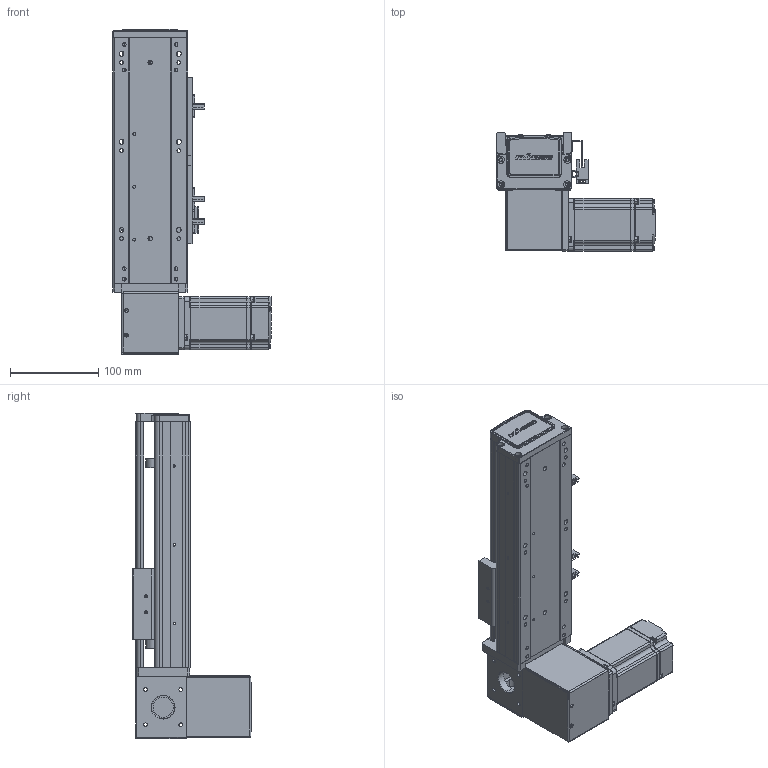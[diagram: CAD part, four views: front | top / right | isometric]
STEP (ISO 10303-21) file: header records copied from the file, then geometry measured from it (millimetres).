
FILE_DESCRIPTION (( 'STEP AP203' ), '1' );
FILE_NAME ('RY80-T-300-DR.SLDASM_100.step', '2021-03-01T01:48:56', ( '盈信电脑' ), ( '东莞市道滘镇水果街19号' ), 'SwSTEP 2.0', 'SolidWorks 2012', '' );
FILE_SCHEMA (( 'CONFIG_CONTROL_DESIGN' ));
Length unit declared in the file: millimetre
Products named in the file (18): RY80-T-300-DR.SLDASM_100; RY80-T-M4蹟翐3; 1; RY80-T萇儂假蚾啣; RY80-T肮祭謫狟殏俋欶; RY80-T翋肮祭謫裔啣; 滅袉蝶18-10; RY80-T-上下折同步轮盖板; RY80-T-翋肮祭謫釱; RY80俋离覜茼え; RY80-T肮祭湍揤輸2; RY80-T肮祭湍揤輸1; 覜茼ん672; RY80-T綴裔啣; 672嫖萇羲壽假蚾釱; RY80-T-300-DR倰第奻裔啣_100; RY80-T肮祭謫臏賑輸; RY80-T-300-DR倰第菁釱_100
Assembly tree (21 placements, depth 2):
  RY80-T-300-DR.SLDASM_100
    RY80-T-300-DR倰第菁釱_100
    RY80-T肮祭謫臏賑輸
    RY80-T-300-DR倰第奻裔啣_100
    RY80-T綴裔啣
    672嫖萇羲壽假蚾釱  x2
    覜茼ん672  x3
    RY80俋离覜茼え
    RY80-T-翋肮祭謫釱
    RY80-T肮祭湍揤輸1
    RY80-T肮祭湍揤輸2
    滅袉蝶18-10  x2
    RY80-T翋肮祭謫裔啣
    RY80-T-上下折同步轮盖板
    RY80-T肮祭謫狟殏俋欶
    RY80-T萇儂假蚾啣
    1
    RY80-T-M4蹟翐3
Bounding box: 180 x 134.5 x 370 mm (x, y, z)
Volume: 1001013.2 mm3; surface area: 379195.6 mm2
Topology: 21 solids, 21 shells, 2245 faces, 6159 edges, 3996 vertices
Faces by surface type: plane 1277, cylinder 776, cone 136, bspline 56
Entity records: 69606 total; most frequent: CARTESIAN_POINT 15856, ORIENTED_EDGE 10962, DIRECTION 10446, EDGE_CURVE 5481, VERTEX_POINT 3600, VECTOR 3562, LINE 3562, AXIS2_PLACEMENT_3D 3442
